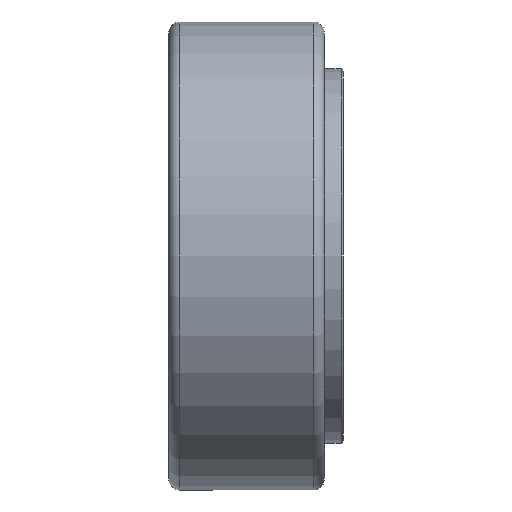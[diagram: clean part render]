
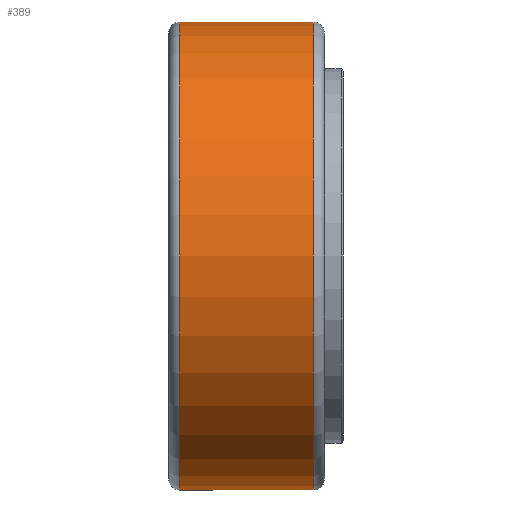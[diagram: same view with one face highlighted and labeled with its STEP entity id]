
A CAD part, front view. The second image highlights one B-rep face of the part: STEP entity #389.
In plain terms, the highlighted cylindrical face has radius 105 mm (diameter 210 mm), a partial arc.
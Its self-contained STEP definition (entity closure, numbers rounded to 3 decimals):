
#39 = VECTOR ( 'NONE', #1024, 1000. ) ;
#57 = DIRECTION ( 'NONE',  ( 0., 0., 1. ) ) ;
#238 = CARTESIAN_POINT ( 'NONE',  ( -34.701, 0., -105. ) ) ;
#257 = EDGE_CURVE ( 'NONE', #1381, #1618, #1224, .T. ) ;
#271 = DIRECTION ( 'NONE',  ( -1., 0., 0. ) ) ;
#389 = ADVANCED_FACE ( 'NONE', ( #827 ), #1186, .T. ) ;
#467 = DIRECTION ( 'NONE',  ( 0., 0., 1. ) ) ;
#497 = ORIENTED_EDGE ( 'NONE', *, *, #931, .T. ) ;
#528 = CARTESIAN_POINT ( 'NONE',  ( 25.299, 0., 105. ) ) ;
#583 = EDGE_LOOP ( 'NONE', ( #2304, #497, #1371, #2068 ) ) ;
#607 = VERTEX_POINT ( 'NONE', #2257 ) ;
#612 = VECTOR ( 'NONE', #1453, 1000. ) ;
#645 = CARTESIAN_POINT ( 'NONE',  ( 25.299, 0., 0. ) ) ;
#652 = CARTESIAN_POINT ( 'NONE',  ( -47.692, 0., 105. ) ) ;
#679 = CARTESIAN_POINT ( 'NONE',  ( -47.692, 0., -105. ) ) ;
#785 = AXIS2_PLACEMENT_3D ( 'NONE', #1974, #990, #57 ) ;
#827 = FACE_OUTER_BOUND ( 'NONE', #583, .T. ) ;
#931 = EDGE_CURVE ( 'NONE', #607, #1381, #1586, .T. ) ;
#990 = DIRECTION ( 'NONE',  ( -1., 0., 0. ) ) ;
#991 = DIRECTION ( 'NONE',  ( 0., 0., 1. ) ) ;
#1012 = EDGE_CURVE ( 'NONE', #607, #2042, #2394, .T. ) ;
#1024 = DIRECTION ( 'NONE',  ( -1., 0., 0. ) ) ;
#1082 = CARTESIAN_POINT ( 'NONE',  ( -34.701, 0., 105. ) ) ;
#1186 = CYLINDRICAL_SURFACE ( 'NONE', #1700, 105. ) ;
#1224 = LINE ( 'NONE', #652, #39 ) ;
#1371 = ORIENTED_EDGE ( 'NONE', *, *, #257, .T. ) ;
#1381 = VERTEX_POINT ( 'NONE', #528 ) ;
#1411 = CARTESIAN_POINT ( 'NONE',  ( -47.692, 0., 0. ) ) ;
#1416 = AXIS2_PLACEMENT_3D ( 'NONE', #645, #2192, #467 ) ;
#1453 = DIRECTION ( 'NONE',  ( -1., 0., 0. ) ) ;
#1586 = CIRCLE ( 'NONE', #1416, 105. ) ;
#1618 = VERTEX_POINT ( 'NONE', #1082 ) ;
#1700 = AXIS2_PLACEMENT_3D ( 'NONE', #1411, #271, #991 ) ;
#1797 = CIRCLE ( 'NONE', #785, 105. ) ;
#1974 = CARTESIAN_POINT ( 'NONE',  ( -34.701, 0., 0. ) ) ;
#2042 = VERTEX_POINT ( 'NONE', #238 ) ;
#2047 = EDGE_CURVE ( 'NONE', #2042, #1618, #1797, .T. ) ;
#2068 = ORIENTED_EDGE ( 'NONE', *, *, #2047, .F. ) ;
#2192 = DIRECTION ( 'NONE',  ( -1., 0., 0. ) ) ;
#2257 = CARTESIAN_POINT ( 'NONE',  ( 25.299, 0., -105. ) ) ;
#2304 = ORIENTED_EDGE ( 'NONE', *, *, #1012, .F. ) ;
#2394 = LINE ( 'NONE', #679, #612 ) ;
